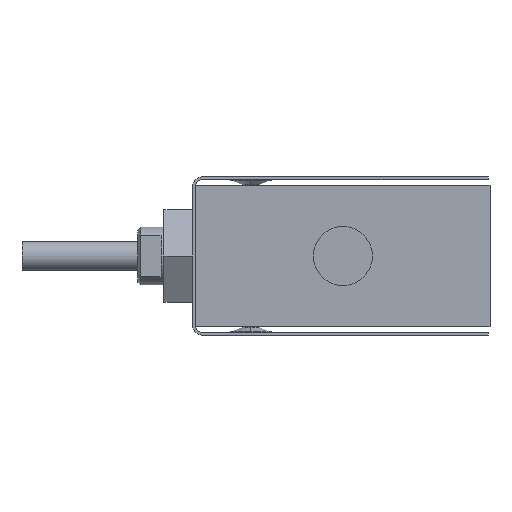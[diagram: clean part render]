
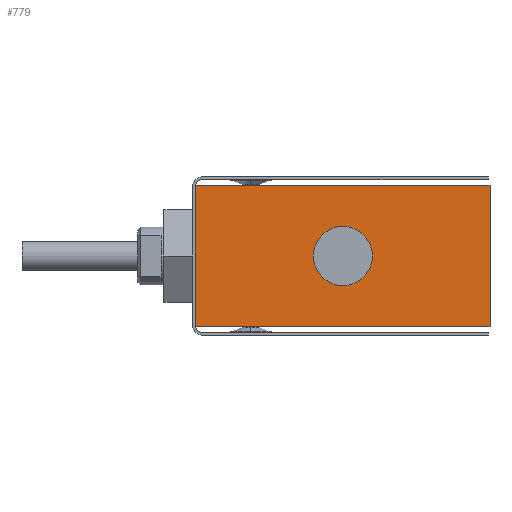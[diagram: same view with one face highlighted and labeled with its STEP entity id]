
A CAD part, front view. The second image highlights one B-rep face of the part: STEP entity #779.
In plain terms, the highlighted planar face has unit normal (0, -1, 0).
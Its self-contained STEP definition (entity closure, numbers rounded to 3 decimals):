
#11 = VERTEX_POINT ( 'NONE', #1175 ) ;
#23 = EDGE_LOOP ( 'NONE', ( #416, #412, #410, #350 ) ) ;
#72 = EDGE_LOOP ( 'NONE', ( #390, #434 ) ) ;
#350 = ORIENTED_EDGE ( 'NONE', *, *, #4337, .T. ) ;
#390 = ORIENTED_EDGE ( 'NONE', *, *, #4320, .F. ) ;
#410 = ORIENTED_EDGE ( 'NONE', *, *, #4314, .F. ) ;
#412 = ORIENTED_EDGE ( 'NONE', *, *, #4196, .F. ) ;
#416 = ORIENTED_EDGE ( 'NONE', *, *, #4313, .T. ) ;
#434 = ORIENTED_EDGE ( 'NONE', *, *, #4171, .F. ) ;
#779 = ADVANCED_FACE ( 'NONE', ( #1833, #1828 ), #1835, .F. ) ;
#1175 = CARTESIAN_POINT ( 'NONE',  ( 0., -30.48, 17.29 ) ) ;
#1828 = FACE_OUTER_BOUND ( 'NONE', #23, .T. ) ;
#1830 = DIRECTION ( 'NONE',  ( 0., 1., 0. ) ) ;
#1832 = CARTESIAN_POINT ( 'NONE',  ( -25.4, -30.48, 24.38 ) ) ;
#1833 = FACE_BOUND ( 'NONE', #72, .T. ) ;
#1835 = PLANE ( 'NONE',  #4595 ) ;
#1837 = DIRECTION ( 'NONE',  ( 0., 0., 1. ) ) ;
#2888 = CARTESIAN_POINT ( 'NONE',  ( 0., -30.48, 12.19 ) ) ;
#2889 = DIRECTION ( 'NONE',  ( 0., -1., 0. ) ) ;
#2890 = DIRECTION ( 'NONE',  ( 0., 0., -1. ) ) ;
#2962 = LINE ( 'NONE', #2963, #3831 ) ;
#2963 = CARTESIAN_POINT ( 'NONE',  ( 25.4, -30.48, 24.38 ) ) ;
#2964 = DIRECTION ( 'NONE',  ( 0., 0., -1. ) ) ;
#3314 = LINE ( 'NONE', #3329, #3701 ) ;
#3325 = LINE ( 'NONE', #3327, #3685 ) ;
#3327 = CARTESIAN_POINT ( 'NONE',  ( -25.4, -30.48, 0. ) ) ;
#3328 = DIRECTION ( 'NONE',  ( 1., 0., 0. ) ) ;
#3329 = CARTESIAN_POINT ( 'NONE',  ( -25.4, -30.48, 24.38 ) ) ;
#3330 = DIRECTION ( 'NONE',  ( 1., 0., 0. ) ) ;
#3348 = CARTESIAN_POINT ( 'NONE',  ( 0., -30.48, 12.19 ) ) ;
#3349 = DIRECTION ( 'NONE',  ( 0., -1., 0. ) ) ;
#3350 = DIRECTION ( 'NONE',  ( 0., 0., -1. ) ) ;
#3398 = LINE ( 'NONE', #3399, #3664 ) ;
#3399 = CARTESIAN_POINT ( 'NONE',  ( -25.4, -30.48, 24.38 ) ) ;
#3400 = DIRECTION ( 'NONE',  ( 0., 0., -1. ) ) ;
#3425 = CARTESIAN_POINT ( 'NONE',  ( 25.4, -30.48, 0. ) ) ;
#3428 = CARTESIAN_POINT ( 'NONE',  ( -25.4, -30.48, 0. ) ) ;
#3444 = CARTESIAN_POINT ( 'NONE',  ( -25.4, -30.48, 24.38 ) ) ;
#3446 = CARTESIAN_POINT ( 'NONE',  ( 25.4, -30.48, 24.38 ) ) ;
#3491 = CARTESIAN_POINT ( 'NONE',  ( 0., -30.48, 7.09 ) ) ;
#3644 = CIRCLE ( 'NONE', #3666, 5.1 ) ;
#3664 = VECTOR ( 'NONE', #3400, 1000. ) ;
#3666 = AXIS2_PLACEMENT_3D ( 'NONE', #3348, #3349, #3350 ) ;
#3685 = VECTOR ( 'NONE', #3328, 1000. ) ;
#3701 = VECTOR ( 'NONE', #3330, 1000. ) ;
#3831 = VECTOR ( 'NONE', #2964, 1000. ) ;
#3847 = CIRCLE ( 'NONE', #3927, 5.1 ) ;
#3927 = AXIS2_PLACEMENT_3D ( 'NONE', #2888, #2889, #2890 ) ;
#4171 = EDGE_CURVE ( 'NONE', #11, #4460, #3847, .T. ) ;
#4196 = EDGE_CURVE ( 'NONE', #4391, #4370, #2962, .T. ) ;
#4313 = EDGE_CURVE ( 'NONE', #4373, #4370, #3325, .T. ) ;
#4314 = EDGE_CURVE ( 'NONE', #4389, #4391, #3314, .T. ) ;
#4320 = EDGE_CURVE ( 'NONE', #4460, #11, #3644, .T. ) ;
#4337 = EDGE_CURVE ( 'NONE', #4389, #4373, #3398, .T. ) ;
#4370 = VERTEX_POINT ( 'NONE', #3425 ) ;
#4373 = VERTEX_POINT ( 'NONE', #3428 ) ;
#4389 = VERTEX_POINT ( 'NONE', #3444 ) ;
#4391 = VERTEX_POINT ( 'NONE', #3446 ) ;
#4460 = VERTEX_POINT ( 'NONE', #3491 ) ;
#4595 = AXIS2_PLACEMENT_3D ( 'NONE', #1832, #1830, #1837 ) ;
